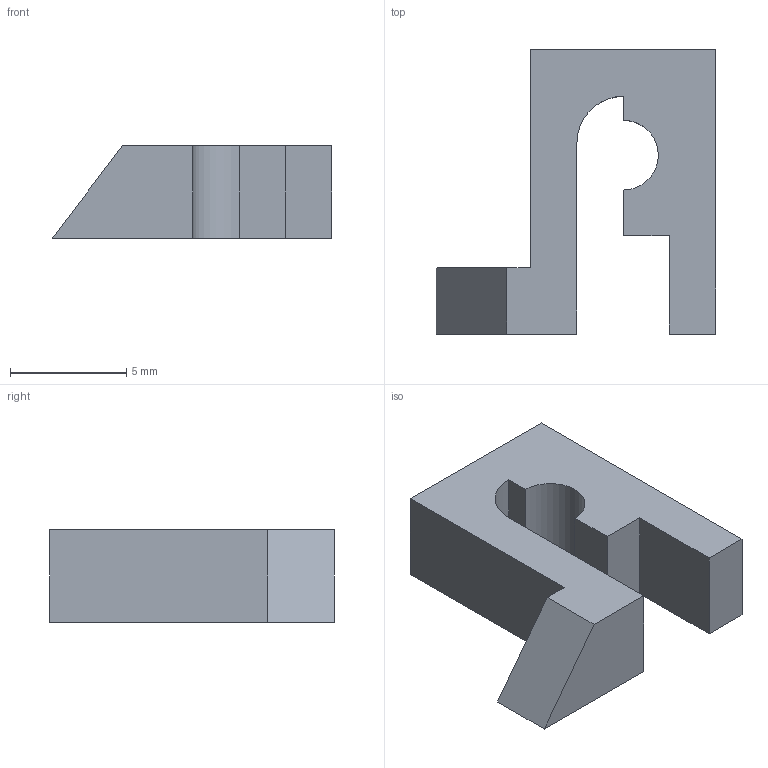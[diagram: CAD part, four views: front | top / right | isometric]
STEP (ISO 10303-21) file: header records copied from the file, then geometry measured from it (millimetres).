
FILE_DESCRIPTION((''),'2;1');
FILE_NAME('C:\MRFR\SHOCK\Hexen\STP\lock.stp','2013-08-15T20:12:55',('mrfr'),(''),'Autodesk Inventor 2013','Autodesk Inventor 2013','');
FILE_SCHEMA(('AUTOMOTIVE_DESIGN { 1 0 10303 214 1 1 1 1 }'));
Length unit declared in the file: millimetre
Products named in the file (1): lock
Bounding box: 12.04 x 12.24 x 4 mm (x, y, z)
Volume: 293.3 mm3; surface area: 416.9 mm2
Topology: 1 solids, 1 shells, 16 faces, 42 edges, 28 vertices
Faces by surface type: plane 14, cylinder 2
Entity records: 516 total; most frequent: CARTESIAN_POINT 87, ORIENTED_EDGE 84, DIRECTION 80, EDGE_CURVE 42, VECTOR 38, LINE 38, VERTEX_POINT 28, AXIS2_PLACEMENT_3D 21
